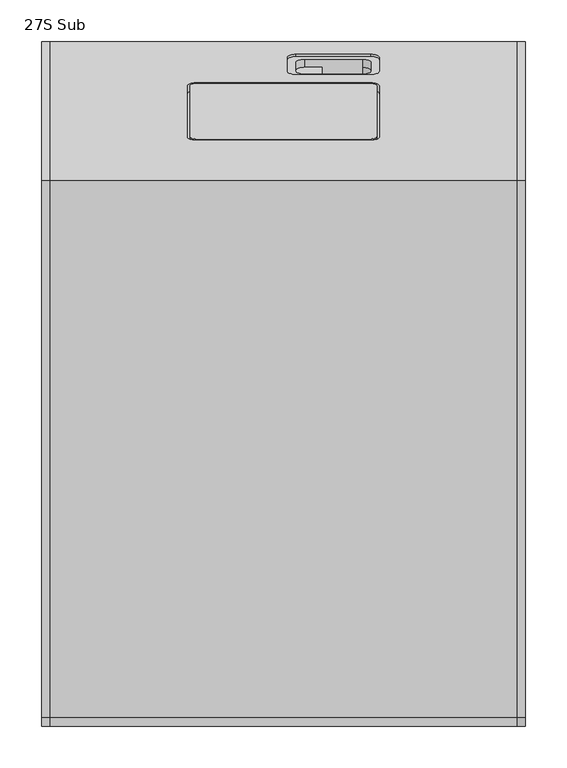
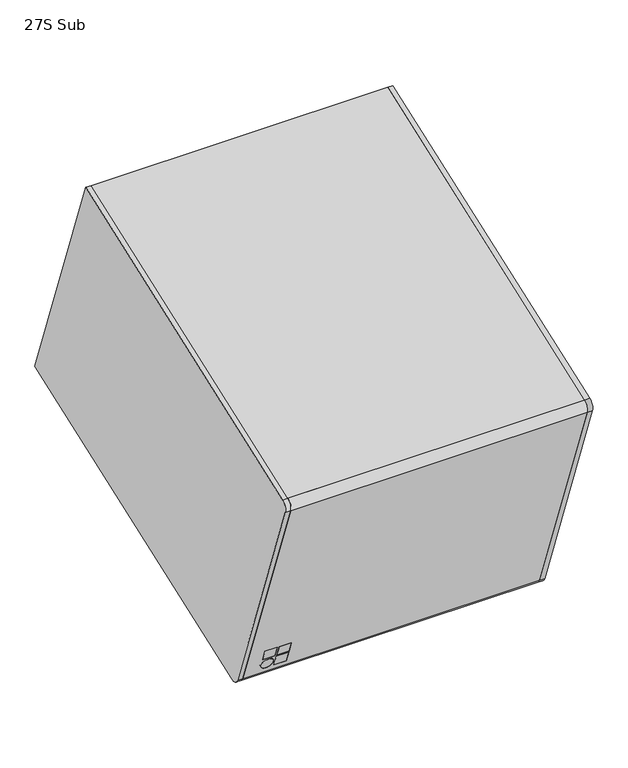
"""IFC4 building model written with IfcOpenShell, lengths in millimetres: proxy geometry, d&b xS-Series 27S Subwoofer : 27S Sub."""

from ifc_helpers import new_model, si_unit, point, frame, frame_2d, origin, place, context, project, spatial, polyline, circle_curve, trimmed, segment, composite_curve, outline, extrude, source, transform, mapped, element, save
from ifc_brep_helpers import plane_surface, cylinder_surface, revolved_surface, advanced_brep


def proxy_27s_sub_db3ca03a(model_context):
    return source(origin(), model_context, "Body", "SolidModel", [
        extrude(outline(composite_curve([segment(trimmed(circle_curve(frame_2d((0.0, -18.25)), 18.25), [point((0.0, -36.5))], [point((0.0, 0.0))], False, "CARTESIAN"), True, "CONTINUOUS"), segment(trimmed(circle_curve(frame_2d((0.0, -18.25)), 18.25), [point((0.0, 0.0))], [point((0.0, -36.5))], False, "CARTESIAN"), True, "CONTINUOUS")], self_intersect=False)), frame((-238.25, 375.7836878, -126.0778329), z_axis=(0.0, -0.34202014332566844, 0.9396926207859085), x_axis=(0.0, 0.9396926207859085, 0.34202014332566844)), (0.0, 0.0, 1.0), 3.0),
        extrude(outline(composite_curve([segment(trimmed(circle_curve(frame_2d((0.0, -458.25)), 18.25), [point((0.0, -476.5))], [point((0.0, -440.0))], False, "CARTESIAN"), True, "CONTINUOUS"), segment(trimmed(circle_curve(frame_2d((0.0, -458.25)), 18.25), [point((0.0, -440.0))], [point((0.0, -476.5))], False, "CARTESIAN"), True, "CONTINUOUS")], self_intersect=False)), frame((-238.25, 375.7836878, -126.0778329), z_axis=(0.0, -0.34202014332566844, 0.9396926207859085), x_axis=(0.0, 0.9396926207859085, 0.34202014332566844)), (0.0, 0.0, 1.0), 3.0),
        extrude(outline(composite_curve([segment(trimmed(circle_curve(frame_2d((-594.9999999, -18.25)), 18.25), [point((-594.9999999, -36.5))], [point((-594.9999999, 0.0))], False, "CARTESIAN"), True, "CONTINUOUS"), segment(trimmed(circle_curve(frame_2d((-594.9999999, -18.25)), 18.25), [point((-594.9999999, 0.0))], [point((-594.9999999, -36.5))], False, "CARTESIAN"), True, "CONTINUOUS")], self_intersect=False)), frame((-238.25, 375.7836878, -126.0778329), z_axis=(0.0, -0.34202014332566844, 0.9396926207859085), x_axis=(0.0, 0.9396926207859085, 0.34202014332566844)), (0.0, 0.0, 1.0), 3.0),
        extrude(outline(composite_curve([segment(trimmed(circle_curve(frame_2d((-594.9999999, -458.25)), 18.25), [point((-594.9999999, -476.5))], [point((-594.9999999, -440.0))], False, "CARTESIAN"), True, "CONTINUOUS"), segment(trimmed(circle_curve(frame_2d((-594.9999999, -458.25)), 18.25), [point((-594.9999999, -440.0))], [point((-594.9999999, -476.5))], False, "CARTESIAN"), True, "CONTINUOUS")], self_intersect=False)), frame((-238.25, 375.7836878, -126.0778329), z_axis=(0.0, -0.34202014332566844, 0.9396926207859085), x_axis=(0.0, 0.9396926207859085, 0.34202014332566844)), (0.0, 0.0, 1.0), 3.0),
        advanced_brep(
        [(280.0, -250.5698045, -334.8966603), (280.0, -231.344113, -343.8617475), (280.0, -233.0542137, -339.1632844), (280.0, -245.8713413, -333.1865596), (280.0, -402.516567, 97.1926607), (280.0, -396.5398422, 110.0097884), (280.0, -398.2499429, 114.7082515), (280.0, -407.2150301, 95.48256), (-280.0, -250.5698045, -334.8966603), (-280.0, -407.2150301, 95.48256), (-280.0, -398.2499429, 114.7082515), (-280.0, -396.5398422, 110.0097884), (-280.0, -402.516567, 97.1926607), (-280.0, -245.8713413, -333.1865596), (-280.0, -233.0542137, -339.1632844), (-280.0, -231.344113, -343.8617475), (-226.6666667, -271.0910131, -278.5151031), (-226.6666667, -263.110543, -300.4412642), (-250.0, -263.110543, -300.4412642), (-250.0, -271.0910131, -278.5151031), (-200.0, -271.0910131, -278.5151031), (-200.0, -263.110543, -300.4412642), (-223.3333333, -263.110543, -300.4412642), (-223.3333333, -271.0910131, -278.5151031), (-200.0, -261.9704759, -303.573573), (-200.0, -253.9900059, -325.4997341), (-223.3333333, -253.9900059, -325.4997341), (-223.3333333, -261.9704759, -303.573573), (-238.3333333, -253.9900059, -325.4997341), (-238.3333333, -261.9704759, -303.573573), (-226.6666667, -258.4120799, -298.7311635), (-226.6666667, -266.3925499, -276.8050024), (-250.0, -266.3925499, -276.8050024), (-250.0, -258.4120799, -298.7311635), (-200.0, -258.4120799, -298.7311635), (-200.0, -266.3925499, -276.8050024), (-223.3333333, -266.3925499, -276.8050024), (-223.3333333, -258.4120799, -298.7311635), (-200.0, -249.2915428, -323.7896334), (-200.0, -257.2720128, -301.8634722), (-223.3333333, -257.2720128, -301.8634722), (-223.3333333, -249.2915428, -323.7896334), (-238.3333333, -257.2720128, -301.8634722), (-238.3333333, -249.2915428, -323.7896334)],
        [
            (0, 1, circle_curve(frame((280.0, -236.4744151, -329.7663582), z_axis=(1.0, 0.0, 0.0), x_axis=(0.0, 0.9396926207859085, 0.34202014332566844)), 15.0)),
            (1, 2),
            (2, 3, circle_curve(frame((280.0, -236.4744151, -329.7663582), z_axis=(-1.0, 0.0, 0.0), x_axis=(0.0, 0.9396926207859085, 0.34202014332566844)), 10.0)),
            (3, 4),
            (4, 5, circle_curve(frame((280.0, -393.1196408, 100.6128621), z_axis=(-1.0, 0.0, 0.0), x_axis=(0.0, 0.9396926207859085, 0.34202014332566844)), 10.0)),
            (5, 6),
            (6, 7, circle_curve(frame((280.0, -393.1196408, 100.6128621), z_axis=(1.0, 0.0, 0.0), x_axis=(0.0, 0.9396926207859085, 0.34202014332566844)), 15.0)),
            (7, 0),
            (8, 9),
            (9, 10, circle_curve(frame((-280.0, -393.1196408, 100.6128621), z_axis=(-1.0, 0.0, 0.0), x_axis=(0.0, 0.9396926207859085, 0.34202014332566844)), 15.0)),
            (10, 11),
            (11, 12, circle_curve(frame((-280.0, -393.1196408, 100.6128621), z_axis=(1.0, 0.0, 0.0), x_axis=(0.0, 0.9396926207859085, 0.34202014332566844)), 10.0)),
            (12, 13),
            (13, 14, circle_curve(frame((-280.0, -236.4744151, -329.7663582), z_axis=(1.0, 0.0, 0.0), x_axis=(0.0, 0.9396926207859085, 0.34202014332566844)), 10.0)),
            (14, 15),
            (15, 8, circle_curve(frame((-280.0, -236.4744151, -329.7663582), z_axis=(-1.0, 0.0, 0.0), x_axis=(0.0, 0.9396926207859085, 0.34202014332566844)), 15.0)),
            (6, 10),
            (9, 7),
            (8, 0),
            (16, 17),
            (17, 18),
            (18, 19),
            (19, 16),
            (20, 21),
            (21, 22),
            (22, 23),
            (23, 20),
            (24, 25),
            (25, 26),
            (26, 27),
            (27, 24),
            (28, 29, circle_curve(frame((-238.3333333, -257.9802409, -314.5366535), z_axis=(0.0, 0.939692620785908, 0.34202014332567), x_axis=(0.0, -0.34202014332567, 0.939692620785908)), 11.6666667)),
            (29, 28, circle_curve(frame((-238.3333333, -257.9802409, -314.5366535), z_axis=(0.0, 0.939692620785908, 0.34202014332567), x_axis=(0.0, -0.34202014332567, 0.939692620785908)), 11.6666667)),
            (15, 1),
            (14, 2),
            (13, 3),
            (12, 4),
            (30, 31),
            (31, 32),
            (32, 33),
            (33, 30),
            (34, 35),
            (35, 36),
            (36, 37),
            (37, 34),
            (38, 39),
            (39, 40),
            (40, 41),
            (41, 38),
            (42, 43, circle_curve(frame((-238.3333333, -253.2817778, -312.8265528), z_axis=(0.0, -0.939692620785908, -0.34202014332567), x_axis=(0.0, -0.34202014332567, 0.939692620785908)), 11.6666667)),
            (43, 42, circle_curve(frame((-238.3333333, -253.2817778, -312.8265528), z_axis=(0.0, -0.939692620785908, -0.34202014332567), x_axis=(0.0, -0.34202014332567, 0.939692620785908)), 11.6666667)),
            (11, 5),
            (16, 31),
            (30, 17),
            (33, 18),
            (32, 19),
            (20, 35),
            (34, 21),
            (37, 22),
            (36, 23),
            (24, 39),
            (38, 25),
            (41, 26),
            (40, 27),
            (28, 43),
            (42, 29),
        ],
        [
            plane_surface(frame((280.0, -222.3790258, -324.636056), z_axis=(1.0, 0.0, 0.0), x_axis=(0.0, -0.34202014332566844, 0.9396926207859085))),
            plane_surface(frame((-280.0, -222.3790258, -324.636056), z_axis=(-1.0, 0.0, 0.0), x_axis=(0.0, 0.34202014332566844, -0.9396926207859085))),
            cylinder_surface(frame((-280.0, -393.1196408, 100.6128621), z_axis=(1.0, 0.0, 0.0), x_axis=(0.0, 0.9396926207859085, 0.34202014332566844)), 15.0),
            plane_surface(frame((280.0, -407.2150301, 95.48256), z_axis=(0.0, -0.9396926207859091, -0.3420201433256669), x_axis=(-1.0, 0.0, 0.0))),
            cylinder_surface(frame((-280.0, -236.4744151, -329.7663582), z_axis=(1.0, 0.0, 0.0), x_axis=(0.0, 0.9396926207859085, 0.34202014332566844)), 15.0),
            plane_surface(frame((280.0, -231.344113, -343.8617475), z_axis=(0.0, 0.9396926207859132, 0.3420201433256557), x_axis=(-1.0, 0.0, 0.0))),
            revolved_surface(polyline([(-280.0, -227.0774888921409, -326.3461567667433), (280.0, -227.0774888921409, -326.3461567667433)]), (-280.0, -236.4744151, -329.7663582), (-1.0, 0.0, 0.0)),
            plane_surface(frame((280.0, -245.8713413, -333.1865596), z_axis=(0.0, 0.9396926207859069, 0.34202014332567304), x_axis=(-1.0, 0.0, 0.0))),
            revolved_surface(polyline([(-280.0, -383.7227145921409, 104.03306353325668), (280.0, -383.7227145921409, 104.03306353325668)]), (-280.0, -393.1196408, 100.6128621), (-1.0, 0.0, 0.0)),
            plane_surface(frame((280.0, -396.5398422, 110.0097884), z_axis=(0.0, 0.9396926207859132, 0.3420201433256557), x_axis=(-1.0, 0.0, 0.0))),
            plane_surface(frame((-226.6666667, -263.110543, -300.4412642), z_axis=(-1.0, 0.0, 0.0), x_axis=(0.0, 0.9396926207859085, 0.34202014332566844))),
            plane_surface(frame((-250.0, -263.110543, -300.4412642), z_axis=(0.0, -0.34202014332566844, 0.9396926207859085), x_axis=(0.0, 0.9396926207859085, 0.34202014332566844))),
            plane_surface(frame((-250.0, -271.0910131, -278.5151031), z_axis=(1.0, 0.0, 0.0), x_axis=(0.0, 0.9396926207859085, 0.34202014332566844))),
            plane_surface(frame((-226.6666667, -271.0910131, -278.5151031), z_axis=(0.0, 0.34202014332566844, -0.9396926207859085), x_axis=(0.0, 0.9396926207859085, 0.34202014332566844))),
            plane_surface(frame((-200.0, -263.110543, -300.4412642), z_axis=(-1.0, 0.0, 0.0), x_axis=(0.0, 0.9396926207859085, 0.34202014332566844))),
            plane_surface(frame((-223.3333333, -263.110543, -300.4412642), z_axis=(0.0, -0.34202014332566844, 0.9396926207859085), x_axis=(0.0, 0.9396926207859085, 0.34202014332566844))),
            plane_surface(frame((-223.3333333, -271.0910131, -278.5151031), z_axis=(1.0, 0.0, 0.0), x_axis=(0.0, 0.9396926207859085, 0.34202014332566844))),
            plane_surface(frame((-200.0, -271.0910131, -278.5151031), z_axis=(0.0, 0.34202014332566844, -0.9396926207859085), x_axis=(0.0, 0.9396926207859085, 0.34202014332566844))),
            plane_surface(frame((-200.0, -253.9900059, -325.4997341), z_axis=(-1.0, 0.0, 0.0), x_axis=(0.0, 0.9396926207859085, 0.34202014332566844))),
            plane_surface(frame((-223.3333333, -253.9900059, -325.4997341), z_axis=(0.0, -0.34202014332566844, 0.9396926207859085), x_axis=(0.0, 0.9396926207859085, 0.34202014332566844))),
            plane_surface(frame((-223.3333333, -261.9704759, -303.573573), z_axis=(1.0, 0.0, 0.0), x_axis=(0.0, 0.9396926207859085, 0.34202014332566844))),
            plane_surface(frame((-200.0, -261.9704759, -303.573573), z_axis=(0.0, 0.34202014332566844, -0.9396926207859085), x_axis=(0.0, 0.9396926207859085, 0.34202014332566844))),
            revolved_surface(polyline([(-238.3333333, -261.9704759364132, -303.5735728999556), (-238.3333333, -257.2720128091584, -301.86347217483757)]), (-238.3333333, -257.9802409, -314.5366535), (0.0, -0.939692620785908, -0.34202014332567)),
        ],
        [
            (0, [[1, 2, 3, 4, 5, 6, 7, 8]]),
            (1, [[9, 10, 11, 12, 13, 14, 15, 16]]),
            (2, [[-7, 17, -10, 18]]),
            (3, [[-8, -18, -9, 19], [20, 21, 22, 23], [24, 25, 26, 27], [28, 29, 30, 31], [32, 33]]),
            (4, [[-1, -19, -16, 34]]),
            (5, [[-2, -34, -15, 35]]),
            (6, [[-3, -35, -14, 36]]),
            (7, [[-4, -36, -13, 37], [38, 39, 40, 41], [42, 43, 44, 45], [46, 47, 48, 49], [50, 51]]),
            (8, [[-5, -37, -12, 52]]),
            (9, [[-6, -52, -11, -17]]),
            (10, [[53, -38, 54, -20]]),
            (11, [[-54, -41, 55, -21]]),
            (12, [[-55, -40, 56, -22]]),
            (13, [[-53, -23, -56, -39]]),
            (14, [[57, -42, 58, -24]]),
            (15, [[-58, -45, 59, -25]]),
            (16, [[-59, -44, 60, -26]]),
            (17, [[-57, -27, -60, -43]]),
            (18, [[61, -46, 62, -28]]),
            (19, [[-62, -49, 63, -29]]),
            (20, [[-63, -48, 64, -30]]),
            (21, [[-61, -31, -64, -47]]),
            (22, [[65, -50, 66, -32]]),
            (22, [[-65, -33, -66, -51]]),
        ],
    ),
        extrude(outline(polyline([(0.0, -23.3333333), (0.0, 0.0), (5.0, 0.0), (5.0, -23.3333333), (0.0, -23.3333333)])), frame((-250.0, -263.110543, -300.4412642), z_axis=(0.0, -0.34202014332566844, 0.9396926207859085), x_axis=(0.0, 0.9396926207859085, 0.34202014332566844)), (0.0, 0.0, 1.0), 23.3333333),
        extrude(outline(polyline([(0.0, -23.3333333), (0.0, 0.0), (5.0, 0.0), (5.0, -23.3333333), (0.0, -23.3333333)])), frame((-223.3333333, -263.110543, -300.4412642), z_axis=(0.0, -0.34202014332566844, 0.9396926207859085), x_axis=(0.0, 0.9396926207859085, 0.34202014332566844)), (0.0, 0.0, 1.0), 23.3333333),
        extrude(outline(polyline([(0.0, -23.3333333), (0.0, 0.0), (5.0, 0.0), (5.0, -23.3333333), (0.0, -23.3333333)])), frame((-223.3333333, -253.9900059, -325.4997341), z_axis=(0.0, -0.34202014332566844, 0.9396926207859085), x_axis=(0.0, 0.9396926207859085, 0.34202014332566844)), (0.0, 0.0, 1.0), 23.3333333),
        extrude(outline(composite_curve([segment(trimmed(circle_curve(frame_2d((-17.5, -38.3333333)), 11.6666667), [point((-17.5, -50.0))], [point((-17.5, -26.6666667))], False, "CARTESIAN"), True, "CONTINUOUS"), segment(trimmed(circle_curve(frame_2d((-17.5, -38.3333333)), 11.6666667), [point((-17.5, -26.6666667))], [point((-17.5, -50.0))], False, "CARTESIAN"), True, "CONTINUOUS")], self_intersect=False)), frame((-255.8333333, -271.0910131, -278.5151031), z_axis=(0.0, 0.939692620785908, 0.34202014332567), x_axis=(-1.0, 0.0, 0.0)), (0.0, 0.0, 1.0), 5.0),
        advanced_brep(
        [(280.0, 412.3453322, -109.5779493), (280.0, -231.344113, -343.8617475), (-280.0, -231.344113, -343.8617475), (-280.0, 412.3453322, -109.5779493), (280.0, 245.4395023, 348.9920496), (-280.0, 245.4395023, 348.9920496), (115.0, 298.1106044, 204.279386), (105.0, 294.6904029, 213.6763122), (-105.0, 294.6904029, 213.6763122), (-115.0, 298.1106044, 204.279386), (-115.0, 359.6742302, 35.1347143), (-105.0, 363.0944316, 25.7377881), (105.0, 363.0944316, 25.7377881), (115.0, 359.6742302, 35.1347143), (105.0, 397.2964459, -68.231474), (115.0, 393.8762445, -58.8345478), (115.0, 376.7752373, -11.8499167), (105.0, 373.3550359, -2.4529905), (15.0, 373.3550359, -2.4529905), (5.0, 376.7752373, -11.8499167), (5.0, 393.8762445, -58.8345478), (15.0, 397.2964459, -68.231474), (280.0, -398.2499429, 114.7082515), (-280.0, -398.2499429, 114.7082515), (280.0, -396.5398422, 110.0097884), (-280.0, -396.5398422, 110.0097884), (280.0, -402.516567, 97.1926607), (-280.0, -402.516567, 97.1926607), (280.0, -245.8713413, -333.1865596), (-280.0, -245.8713413, -333.1865596), (280.0, -233.0542137, -339.1632844), (-280.0, -233.0542137, -339.1632844), (105.0, 285.2934767, 210.2561108), (115.0, 288.7136782, 200.8591846), (115.0, 350.277304, 31.7145129), (105.0, 353.6975054, 22.3175867), (-105.0, 353.6975054, 22.3175867), (-115.0, 350.277304, 31.7145129), (-115.0, 288.7136782, 200.8591846), (-105.0, 285.2934767, 210.2561108), (115.0, 391.0571666, -59.8606082), (105.0, 394.4773681, -69.2575344), (15.0, 394.4773681, -69.2575344), (5.0, 391.0571666, -59.8606082), (5.0, 373.9561595, -12.8759772), (15.0, 370.535958, -3.479051), (105.0, 370.535958, -3.479051), (115.0, 373.9561595, -12.8759772), (95.0, 373.9561595, -12.8759772), (25.0, 373.9561595, -12.8759772), (15.0, 377.3763609, -22.2729034), (15.0, 387.6369652, -50.463682), (25.0, 391.0571666, -59.8606082), (95.0, 391.0571666, -59.8606082), (105.0, 387.6369652, -50.463682), (105.0, 377.3763609, -22.2729034), (25.0, 381.6602404, -63.2808096), (15.0, 378.240039, -53.8838834), (15.0, 367.9794347, -25.6931048), (25.0, 364.5592333, -16.2961786), (46.2039304, 364.5592333, -16.2961786), (46.2039304, 381.6602404, -63.2808096), (95.0, 364.5592333, -16.2961786), (95.0, 331.6699915, -28.2668836), (46.2039304, 331.6699915, -28.2668836), (46.2039304, 348.7709987, -75.2515147), (95.0, 348.7709987, -75.2515147), (95.0, 381.6602404, -63.2808096), (105.0, 378.240039, -53.8838834), (105.0, 345.3507973, -65.8545885), (105.0, 335.090193, -37.6638098), (105.0, 367.9794347, -25.6931048)],
        [
            (0, 1),
            (1, 2),
            (2, 3),
            (3, 0),
            (4, 0),
            (3, 5),
            (5, 4),
            (6, 7, circle_curve(frame((105.0, 298.1106044, 204.279386), z_axis=(0.0, -0.9396926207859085, -0.34202014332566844), x_axis=(-1.0, 0.0, 0.0)), 10.0)),
            (7, 8),
            (8, 9, circle_curve(frame((-105.0, 298.1106044, 204.279386), z_axis=(0.0, -0.9396926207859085, -0.34202014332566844), x_axis=(-1.0, 0.0, 0.0)), 10.0)),
            (9, 10),
            (10, 11, circle_curve(frame((-105.0, 359.6742302, 35.1347143), z_axis=(0.0, -0.9396926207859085, -0.34202014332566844), x_axis=(-1.0, 0.0, 0.0)), 10.0)),
            (11, 12),
            (12, 13, circle_curve(frame((105.0, 359.6742302, 35.1347143), z_axis=(0.0, -0.9396926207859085, -0.34202014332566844), x_axis=(-1.0, 0.0, 0.0)), 10.0)),
            (13, 6),
            (14, 15, circle_curve(frame((105.0, 393.8762445, -58.8345478), z_axis=(0.0, -0.9396926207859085, -0.34202014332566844), x_axis=(-1.0, 0.0, 0.0)), 10.0)),
            (15, 16),
            (16, 17, circle_curve(frame((105.0, 376.7752373, -11.8499167), z_axis=(0.0, -0.9396926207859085, -0.34202014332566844), x_axis=(-1.0, 0.0, 0.0)), 10.0)),
            (17, 18),
            (18, 19, circle_curve(frame((15.0, 376.7752373, -11.8499167), z_axis=(0.0, -0.9396926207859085, -0.34202014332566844), x_axis=(-1.0, 0.0, 0.0)), 10.0)),
            (19, 20),
            (20, 21, circle_curve(frame((15.0, 393.8762445, -58.8345478), z_axis=(0.0, -0.9396926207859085, -0.34202014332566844), x_axis=(-1.0, 0.0, 0.0)), 10.0)),
            (21, 14),
            (22, 4),
            (5, 23),
            (23, 22),
            (24, 22),
            (23, 25),
            (25, 24),
            (26, 24, circle_curve(frame((280.0, -393.1196408, 100.6128621), z_axis=(-1.0, 0.0, 0.0), x_axis=(0.0, 0.9396926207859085, 0.34202014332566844)), 10.0)),
            (25, 27, circle_curve(frame((-280.0, -393.1196408, 100.6128621), z_axis=(1.0, 0.0, 0.0), x_axis=(0.0, 0.9396926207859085, 0.34202014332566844)), 10.0)),
            (27, 26),
            (28, 26),
            (27, 29),
            (29, 28),
            (30, 28, circle_curve(frame((280.0, -236.4744151, -329.7663582), z_axis=(-1.0, 0.0, 0.0), x_axis=(0.0, 0.9396926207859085, 0.34202014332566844)), 10.0)),
            (29, 31, circle_curve(frame((-280.0, -236.4744151, -329.7663582), z_axis=(1.0, 0.0, 0.0), x_axis=(0.0, 0.9396926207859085, 0.34202014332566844)), 10.0)),
            (31, 30),
            (1, 30),
            (31, 2),
            (32, 33, circle_curve(frame((105.0, 288.7136782, 200.8591846), z_axis=(0.0, 0.9396926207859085, 0.34202014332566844), x_axis=(-1.0, 0.0, 0.0)), 10.0)),
            (33, 34),
            (34, 35, circle_curve(frame((105.0, 350.277304, 31.7145129), z_axis=(0.0, 0.9396926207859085, 0.34202014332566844), x_axis=(-1.0, 0.0, 0.0)), 10.0)),
            (35, 36),
            (36, 37, circle_curve(frame((-105.0, 350.277304, 31.7145129), z_axis=(0.0, 0.9396926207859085, 0.34202014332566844), x_axis=(-1.0, 0.0, 0.0)), 10.0)),
            (37, 38),
            (38, 39, circle_curve(frame((-105.0, 288.7136782, 200.8591846), z_axis=(0.0, 0.9396926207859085, 0.34202014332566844), x_axis=(-1.0, 0.0, 0.0)), 10.0)),
            (39, 32),
            (32, 7),
            (6, 33),
            (13, 34),
            (12, 35),
            (11, 36),
            (10, 37),
            (9, 38),
            (8, 39),
            (40, 41, circle_curve(frame((105.0, 391.0571666, -59.8606082), z_axis=(0.0, 0.9396926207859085, 0.34202014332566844), x_axis=(-1.0, 0.0, 0.0)), 10.0)),
            (41, 42),
            (42, 43, circle_curve(frame((15.0, 391.0571666, -59.8606082), z_axis=(0.0, 0.9396926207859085, 0.34202014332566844), x_axis=(-1.0, 0.0, 0.0)), 10.0)),
            (43, 44),
            (44, 45, circle_curve(frame((15.0, 373.9561595, -12.8759772), z_axis=(0.0, 0.9396926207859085, 0.34202014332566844), x_axis=(-1.0, 0.0, 0.0)), 10.0)),
            (45, 46),
            (46, 47, circle_curve(frame((105.0, 373.9561595, -12.8759772), z_axis=(0.0, 0.9396926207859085, 0.34202014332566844), x_axis=(-1.0, 0.0, 0.0)), 10.0)),
            (47, 40),
            (48, 49),
            (49, 50, circle_curve(frame((25.0, 377.3763609, -22.2729034), z_axis=(0.0, -0.9396926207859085, -0.34202014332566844), x_axis=(-1.0, 0.0, 0.0)), 10.0)),
            (50, 51),
            (51, 52, circle_curve(frame((25.0, 387.6369652, -50.463682), z_axis=(0.0, -0.9396926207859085, -0.34202014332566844), x_axis=(-1.0, 0.0, 0.0)), 10.0)),
            (52, 53),
            (53, 54, circle_curve(frame((95.0, 387.6369652, -50.463682), z_axis=(0.0, -0.9396926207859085, -0.34202014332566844), x_axis=(-1.0, 0.0, 0.0)), 10.0)),
            (54, 55),
            (55, 48, circle_curve(frame((95.0, 377.3763609, -22.2729034), z_axis=(0.0, -0.9396926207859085, -0.34202014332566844), x_axis=(-1.0, 0.0, 0.0)), 10.0)),
            (40, 15),
            (14, 41),
            (21, 42),
            (20, 43),
            (19, 44),
            (18, 45),
            (17, 46),
            (16, 47),
            (56, 57, circle_curve(frame((25.0, 378.240039, -53.8838834), z_axis=(0.0, 0.9396926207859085, 0.34202014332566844), x_axis=(-1.0, 0.0, 0.0)), 10.0)),
            (57, 58),
            (58, 59, circle_curve(frame((25.0, 367.9794347, -25.6931048), z_axis=(0.0, 0.9396926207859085, 0.34202014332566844), x_axis=(-1.0, 0.0, 0.0)), 10.0)),
            (59, 60),
            (60, 61),
            (61, 56),
            (48, 62),
            (62, 63),
            (63, 64),
            (64, 60),
            (59, 49),
            (58, 50),
            (57, 51),
            (56, 52),
            (61, 65),
            (65, 66),
            (66, 67),
            (67, 53),
            (67, 68, circle_curve(frame((95.0, 378.240039, -53.8838834), z_axis=(0.0, -0.9396926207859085, -0.34202014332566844), x_axis=(-1.0, 0.0, 0.0)), 10.0)),
            (68, 54),
            (68, 69),
            (69, 70),
            (70, 71),
            (71, 55),
            (71, 62, circle_curve(frame((95.0, 367.9794347, -25.6931048), z_axis=(0.0, -0.9396926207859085, -0.34202014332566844), x_axis=(-1.0, 0.0, 0.0)), 10.0)),
            (63, 70, circle_curve(frame((95.0, 335.090193, -37.6638098), z_axis=(0.0, 0.9396926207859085, 0.34202014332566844), x_axis=(-1.0, 0.0, 0.0)), 10.0)),
            (69, 66, circle_curve(frame((95.0, 345.3507973, -65.8545885), z_axis=(0.0, 0.9396926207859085, 0.34202014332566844), x_axis=(-1.0, 0.0, 0.0)), 10.0)),
            (65, 64),
        ],
        [
            plane_surface(frame((280.0, -231.344113, -343.8617475), z_axis=(0.0, 0.34202014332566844, -0.9396926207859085), x_axis=(-1.0, 0.0, 0.0))),
            plane_surface(frame((280.0, 412.3453322, -109.5779493), z_axis=(0.0, 0.9396926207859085, 0.34202014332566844), x_axis=(-1.0, 0.0, 0.0))),
            plane_surface(frame((280.0, 245.4395023, 348.9920496), z_axis=(0.0, -0.34202014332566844, 0.9396926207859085), x_axis=(-1.0, 0.0, 0.0))),
            plane_surface(frame((280.0, -398.2499429, 114.7082515), z_axis=(0.0, -0.9396926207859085, -0.34202014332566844), x_axis=(-1.0, 0.0, 0.0))),
            cylinder_surface(frame((-280.0, -393.1196408, 100.6128621), z_axis=(1.0, 0.0, 0.0), x_axis=(0.0, 0.9396926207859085, 0.34202014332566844)), 10.0),
            plane_surface(frame((280.0, -402.516567, 97.1926607), z_axis=(0.0, -0.9396926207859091, -0.3420201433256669), x_axis=(-1.0, 0.0, 0.0))),
            cylinder_surface(frame((-280.0, -236.4744151, -329.7663582), z_axis=(1.0, 0.0, 0.0), x_axis=(0.0, 0.9396926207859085, 0.34202014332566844)), 10.0),
            plane_surface(frame((280.0, -233.0542137, -339.1632844), z_axis=(0.0, -0.9396926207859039, -0.34202014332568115), x_axis=(-1.0, 0.0, 0.0))),
            plane_surface(frame((280.0, -398.2499429, 114.7082515), z_axis=(1.0, 0.0, 0.0), x_axis=(0.0, 0.34202014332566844, -0.9396926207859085))),
            plane_surface(frame((-280.0, -398.2499429, 114.7082515), z_axis=(-1.0, 0.0, 0.0), x_axis=(0.0, -0.34202014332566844, 0.9396926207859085))),
            plane_surface(frame((95.0, 288.7136782, 200.8591846), z_axis=(0.0, 0.9396926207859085, 0.34202014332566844), x_axis=(0.0, 0.34202014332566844, -0.9396926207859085))),
            revolved_surface(polyline([(95.0, 298.11060439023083, 204.2793860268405), (95.0, 288.7136781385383, 200.85918457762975)]), (105.0, 288.7136782, 200.8591846), (0.0, 0.9396926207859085, 0.34202014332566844)),
            plane_surface(frame((115.0, 298.1106044, 204.279386), z_axis=(-1.0, 0.0, 0.0), x_axis=(0.0, -0.9396926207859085, -0.34202014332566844))),
            revolved_surface(polyline([(95.0, 359.67423019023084, 35.13471432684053), (95.0, 350.27730397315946, 31.714512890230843)]), (105.0, 350.277304, 31.7145129), (0.0, 0.9396926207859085, 0.34202014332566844)),
            plane_surface(frame((105.0, 363.0944316, 25.7377881), z_axis=(0.0, -0.34202014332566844, 0.9396926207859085), x_axis=(0.0, -0.9396926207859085, -0.34202014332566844))),
            revolved_surface(polyline([(-115.0, 359.67423019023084, 35.13471432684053), (-115.0, 350.27730397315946, 31.714512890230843)]), (-105.0, 350.277304, 31.7145129), (0.0, 0.9396926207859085, 0.34202014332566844)),
            plane_surface(frame((-115.0, 359.6742302, 35.1347143), z_axis=(1.0, 0.0, 0.0), x_axis=(0.0, -0.9396926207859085, -0.34202014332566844))),
            revolved_surface(polyline([(-115.0, 298.11060439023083, 204.2793860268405), (-115.0, 288.7136781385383, 200.85918457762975)]), (-105.0, 288.7136782, 200.8591846), (0.0, 0.9396926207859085, 0.34202014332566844)),
            plane_surface(frame((-105.0, 294.6904029, 213.6763122), z_axis=(0.0, 0.34202014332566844, -0.9396926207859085), x_axis=(0.0, -0.9396926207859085, -0.34202014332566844))),
            plane_surface(frame((95.0, 391.0571666, -59.8606082), z_axis=(0.0, 0.9396926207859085, 0.34202014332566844), x_axis=(0.0, 0.34202014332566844, -0.9396926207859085))),
            revolved_surface(polyline([(95.0, 393.8762444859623, -58.83454776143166), (95.0, 391.0571666, -59.8606082)]), (105.0, 391.0571666, -59.8606082), (0.0, 0.9396926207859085, 0.34202014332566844)),
            plane_surface(frame((105.0, 397.2964459, -68.231474), z_axis=(0.0, -0.34202014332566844, 0.9396926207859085), x_axis=(0.0, -0.9396926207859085, -0.34202014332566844))),
            revolved_surface(polyline([(5.0, 393.8762444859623, -58.83454776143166), (5.0, 391.0571666, -59.8606082)]), (15.0, 391.0571666, -59.8606082), (0.0, 0.9396926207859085, 0.34202014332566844)),
            plane_surface(frame((5.0, 393.8762445, -58.8345478), z_axis=(1.0, 0.0, 0.0), x_axis=(0.0, -0.9396926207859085, -0.34202014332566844))),
            revolved_surface(polyline([(5.0, 376.77523735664, -11.849916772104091), (5.0, 373.9561594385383, -12.875977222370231)]), (15.0, 373.9561595, -12.8759772), (0.0, 0.9396926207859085, 0.34202014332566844)),
            plane_surface(frame((15.0, 373.3550359, -2.4529905), z_axis=(0.0, 0.34202014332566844, -0.9396926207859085), x_axis=(0.0, -0.9396926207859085, -0.34202014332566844))),
            revolved_surface(polyline([(95.0, 376.77523735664, -11.849916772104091), (95.0, 373.9561594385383, -12.875977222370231)]), (105.0, 373.9561595, -12.8759772), (0.0, 0.9396926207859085, 0.34202014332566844)),
            plane_surface(frame((115.0, 376.7752373, -11.8499167), z_axis=(-1.0, 0.0, 0.0), x_axis=(0.0, -0.9396926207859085, -0.34202014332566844))),
            plane_surface(frame((85.0, 367.9794347, -25.6931048), z_axis=(0.0, 0.9396926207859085, 0.34202014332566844), x_axis=(0.0, 0.34202014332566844, -0.9396926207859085))),
            plane_surface(frame((25.0, 373.9561595, -12.8759772), z_axis=(0.0, 0.34202014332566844, -0.9396926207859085), x_axis=(0.0, -0.9396926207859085, -0.34202014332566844))),
            revolved_surface(polyline([(15.0, 377.3763609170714, -22.272903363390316), (15.0, 367.9794347, -25.6931048)]), (25.0, 367.9794347, -25.6931048), (0.0, 0.9396926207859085, 0.34202014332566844)),
            plane_surface(frame((15.0, 387.6369652, -50.463682), z_axis=(1.0, 0.0, 0.0), x_axis=(0.0, -0.9396926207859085, -0.34202014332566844))),
            revolved_surface(polyline([(15.0, 387.63696519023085, -50.463681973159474), (15.0, 378.24003897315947, -53.883883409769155)]), (25.0, 378.240039, -53.8838834), (0.0, 0.9396926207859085, 0.34202014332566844)),
            plane_surface(frame((95.0, 391.0571666, -59.8606082), z_axis=(0.0, -0.34202014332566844, 0.9396926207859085), x_axis=(0.0, -0.9396926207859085, -0.34202014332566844))),
            revolved_surface(polyline([(85.0, 387.63696519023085, -50.463681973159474), (85.0, 378.24003897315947, -53.883883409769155)]), (95.0, 378.240039, -53.8838834), (0.0, 0.9396926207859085, 0.34202014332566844)),
            plane_surface(frame((105.0, 377.3763609, -22.2729034), z_axis=(-1.0, 0.0, 0.0), x_axis=(0.0, -0.9396926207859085, -0.34202014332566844))),
            revolved_surface(polyline([(85.0, 377.3763609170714, -22.272903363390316), (85.0, 367.9794347, -25.6931048)]), (95.0, 367.9794347, -25.6931048), (0.0, 0.9396926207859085, 0.34202014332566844)),
            plane_surface(frame((95.0, 331.6699915, -28.2668836), z_axis=(0.0, 0.9396926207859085, 0.34202014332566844), x_axis=(-1.0, 0.0, 0.0))),
            plane_surface(frame((46.2039304, 381.6602404, -63.2808096), z_axis=(1.0, 0.0, 0.0), x_axis=(0.0, -0.9396926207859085, -0.34202014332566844))),
            revolved_surface(polyline([(85.0, 367.9794347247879, -25.69310478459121), (85.0, 335.0901929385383, -37.66380982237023)]), (95.0, 335.090193, -37.6638098), (0.0, 0.9396926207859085, 0.34202014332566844)),
            revolved_surface(polyline([(85.0, 378.24003903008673, -53.88388348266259), (85.0, 345.35079727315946, -65.85458850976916)]), (95.0, 345.3507973, -65.8545885), (0.0, 0.9396926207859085, 0.34202014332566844)),
        ],
        [
            (0, [[1, 2, 3, 4]]),
            (1, [[5, -4, 6, 7], [8, 9, 10, 11, 12, 13, 14, 15], [16, 17, 18, 19, 20, 21, 22, 23]]),
            (2, [[24, -7, 25, 26]]),
            (3, [[27, -26, 28, 29]]),
            (4, [[30, -29, 31, 32]]),
            (5, [[33, -32, 34, 35]]),
            (6, [[36, -35, 37, 38]]),
            (7, [[39, -38, 40, -2]]),
            (8, [[-27, -30, -33, -36, -39, -1, -5, -24]]),
            (9, [[-25, -6, -3, -40, -37, -34, -31, -28]]),
            (10, [[41, 42, 43, 44, 45, 46, 47, 48]]),
            (11, [[-41, 49, -8, 50]]),
            (12, [[-42, -50, -15, 51]]),
            (13, [[-43, -51, -14, 52]]),
            (14, [[-44, -52, -13, 53]]),
            (15, [[-45, -53, -12, 54]]),
            (16, [[-46, -54, -11, 55]]),
            (17, [[-47, -55, -10, 56]]),
            (18, [[-48, -56, -9, -49]]),
            (19, [[57, 58, 59, 60, 61, 62, 63, 64], [65, 66, 67, 68, 69, 70, 71, 72]]),
            (20, [[-57, 73, -16, 74]]),
            (21, [[-58, -74, -23, 75]]),
            (22, [[-59, -75, -22, 76]]),
            (23, [[-60, -76, -21, 77]]),
            (24, [[-61, -77, -20, 78]]),
            (25, [[-62, -78, -19, 79]]),
            (26, [[-63, -79, -18, 80]]),
            (27, [[-64, -80, -17, -73]]),
            (28, [[81, 82, 83, 84, 85, 86]]),
            (29, [[87, 88, 89, 90, -84, 91, -65]]),
            (30, [[-83, 92, -66, -91]]),
            (31, [[-82, 93, -67, -92]]),
            (32, [[-81, 94, -68, -93]]),
            (33, [[-94, -86, 95, 96, 97, 98, -69]]),
            (34, [[-98, 99, 100, -70]]),
            (35, [[-100, 101, 102, 103, 104, -71]]),
            (36, [[-87, -72, -104, 105]]),
            (37, [[-89, 106, -102, 107, -96, 108]]),
            (38, [[-108, -95, -85, -90]]),
            (39, [[-106, -88, -105, -103]]),
            (40, [[-107, -101, -99, -97]]),
        ],
    ),
        extrude(outline(composite_curve([segment(polyline([(-7.0, -7.0), (-7.0, 203.0)]), True, "CONTINUOUS"), segment(trimmed(circle_curve(frame_2d((0.0, 203.0)), 7.0), [point((-7.0, 203.0))], [point((0.0, 210.0))], False, "CARTESIAN"), True, "CONTINUOUS"), segment(polyline([(0.0, 210.0), (180.0, 210.0)]), True, "CONTINUOUS"), segment(trimmed(circle_curve(frame_2d((180.0, 203.0)), 7.0), [point((180.0, 210.0))], [point((187.0, 203.0))], False, "CARTESIAN"), True, "CONTINUOUS"), segment(polyline([(187.0, 203.0), (187.0, -7.0)]), True, "CONTINUOUS"), segment(trimmed(circle_curve(frame_2d((180.0, -7.0)), 7.0), [point((187.0, -7.0))], [point((180.0, -14.0))], False, "CARTESIAN"), True, "CONTINUOUS"), segment(polyline([(180.0, -14.0), (0.0, -14.0)]), True, "CONTINUOUS"), segment(trimmed(circle_curve(frame_2d((0.0, -7.0)), 7.0), [point((0.0, -14.0))], [point((-7.0, -7.0))], False, "CARTESIAN"), True, "CONTINUOUS")], self_intersect=False)), frame((98.0, 288.7136782, 200.8591846), z_axis=(0.0, 0.9396926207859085, 0.34202014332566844), x_axis=(0.0, 0.34202014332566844, -0.9396926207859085)), (0.0, 0.0, 1.0), 10.0),
        extrude(outline(composite_curve([segment(polyline([(219.0970038, 300.0295867), (326.1493087, 5.9057964)]), True, "CONTINUOUS"), segment(trimmed(circle_curve(frame_2d((310.1745342, 0.091454)), 17.0), [point((326.1493087, 5.9057964))], [point((315.9888766, -15.8833206))], False, "CARTESIAN"), True, "CONTINUOUS"), segment(polyline([(315.9888766, -15.8833206), (19.985701, -123.6196657)]), True, "CONTINUOUS"), segment(trimmed(circle_curve(frame_2d((14.1713586, -107.6448912)), 17.0), [point((19.985701, -123.6196657))], [point((-1.8034159, -113.4592336))], False, "CARTESIAN"), True, "CONTINUOUS"), segment(polyline([(-1.8034159, -113.4592336), (-108.8557208, 180.6645567)]), True, "CONTINUOUS"), segment(trimmed(circle_curve(frame_2d((-92.8809463, 186.4788991)), 17.0), [point((-108.8557208, 180.6645567))], [point((-98.6952887, 202.4536737))], False, "CARTESIAN"), True, "CONTINUOUS"), segment(polyline([(-98.6952887, 202.4536737), (197.3078869, 310.1900188)]), True, "CONTINUOUS"), segment(trimmed(circle_curve(frame_2d((203.1222293, 294.2152443)), 17.0), [point((197.3078869, 310.1900188))], [point((219.0970038, 300.0295867))], False, "CARTESIAN"), True, "CONTINUOUS")], self_intersect=False)), frame((280.0, 0.0, 0.0), z_axis=(1.0, 0.0, 0.0), x_axis=(0.0, 1.0, 0.0)), (0.0, 0.0, 1.0), 10.0),
        extrude(outline(composite_curve([segment(polyline([(-398.2499429, 114.7082515), (245.4395023, 348.9920496), (412.3453322, -109.5779493), (-231.344113, -343.8617475)]), True, "CONTINUOUS"), segment(trimmed(circle_curve(frame_2d((-236.4744151, -329.7663582)), 15.0), [point((-231.344113, -343.8617475))], [point((-250.5698045, -334.8966603))], False, "CARTESIAN"), True, "CONTINUOUS"), segment(polyline([(-250.5698045, -334.8966603), (-407.2150301, 95.48256)]), True, "CONTINUOUS"), segment(trimmed(circle_curve(frame_2d((-393.1196408, 100.6128621)), 15.0), [point((-407.2150301, 95.48256))], [point((-398.2499429, 114.7082515))], False, "CARTESIAN"), True, "CONTINUOUS")], self_intersect=False), holes=[composite_curve([segment(polyline([(196.2818264, 313.0090967), (-99.7213491, 205.2727516)]), True, "CONTINUOUS"), segment(trimmed(circle_curve(frame_2d((-92.8809463, 186.4788991)), 20.0), [point((-99.7213491, 205.2727516))], [point((-111.6747987, 179.6384963))], True, "CARTESIAN"), True, "CONTINUOUS"), segment(polyline([(-111.6747987, 179.6384963), (-4.6224938, -114.485294)]), True, "CONTINUOUS"), segment(trimmed(circle_curve(frame_2d((14.1713586, -107.6448912)), 20.0), [point((-4.6224938, -114.485294))], [point((21.0117615, -126.4387436))], True, "CARTESIAN"), True, "CONTINUOUS"), segment(polyline([(21.0117615, -126.4387436), (317.014937, -18.7023984)]), True, "CONTINUOUS"), segment(trimmed(circle_curve(frame_2d((310.1745342, 0.091454)), 20.0), [point((317.014937, -18.7023984))], [point((328.9683866, 6.9318568))], True, "CARTESIAN"), True, "CONTINUOUS"), segment(polyline([(328.9683866, 6.9318568), (221.9160817, 301.0556471)]), True, "CONTINUOUS"), segment(trimmed(circle_curve(frame_2d((203.1222293, 294.2152443)), 20.0), [point((221.9160817, 301.0556471))], [point((196.2818264, 313.0090967))], True, "CARTESIAN"), True, "CONTINUOUS")], self_intersect=False)]), frame((280.0, 0.0, 0.0), z_axis=(1.0, 0.0, 0.0), x_axis=(0.0, 1.0, 0.0)), (0.0, 0.0, 1.0), 10.0),
        extrude(outline(composite_curve([segment(polyline([(-398.2499429, 114.7082515), (245.4395023, 348.9920496), (412.3453322, -109.5779493), (-231.344113, -343.8617475)]), True, "CONTINUOUS"), segment(trimmed(circle_curve(frame_2d((-236.4744151, -329.7663582)), 15.0), [point((-231.344113, -343.8617475))], [point((-250.5698045, -334.8966603))], False, "CARTESIAN"), True, "CONTINUOUS"), segment(polyline([(-250.5698045, -334.8966603), (-407.2150301, 95.48256)]), True, "CONTINUOUS"), segment(trimmed(circle_curve(frame_2d((-393.1196408, 100.6128621)), 15.0), [point((-407.2150301, 95.48256))], [point((-398.2499429, 114.7082515))], False, "CARTESIAN"), True, "CONTINUOUS")], self_intersect=False)), frame((-290.0, 0.0, 0.0), z_axis=(1.0, 0.0, 0.0), x_axis=(0.0, 1.0, 0.0)), (0.0, 0.0, 1.0), 10.0),
    ])


if __name__ == "__main__":
    model = new_model("IFC4")
    model_context = context("Model", 3, world=origin())
    ifc_project = project(units=[si_unit("LENGTHUNIT", "METRE", prefix="MILLI")], contexts=[model_context])
    site = spatial("IfcSite", under=ifc_project)
    building = spatial("IfcBuilding", under=site)
    placement = place(None, origin())
    proxy_27s_sub_shape = proxy_27s_sub_db3ca03a(model_context)
    element("IfcBuildingElementProxy", 1, Name="d&b xS-Series 27S Subwoofer : 27S Sub", ObjectType="d&b xS-Series 27S Subwoofer : 27S Sub", at=placement, inside=building, context=model_context, shape_type="MappedRepresentation", body=[
        mapped(proxy_27s_sub_shape, transform((0.0, 0.0, 0.0), x_axis=(1.0, 0.0, 0.0), y_axis=(0.0, 1.0, 0.0), z_axis=(0.0, 0.0, 1.0))),
    ])
    save(model, "model.ifc")
